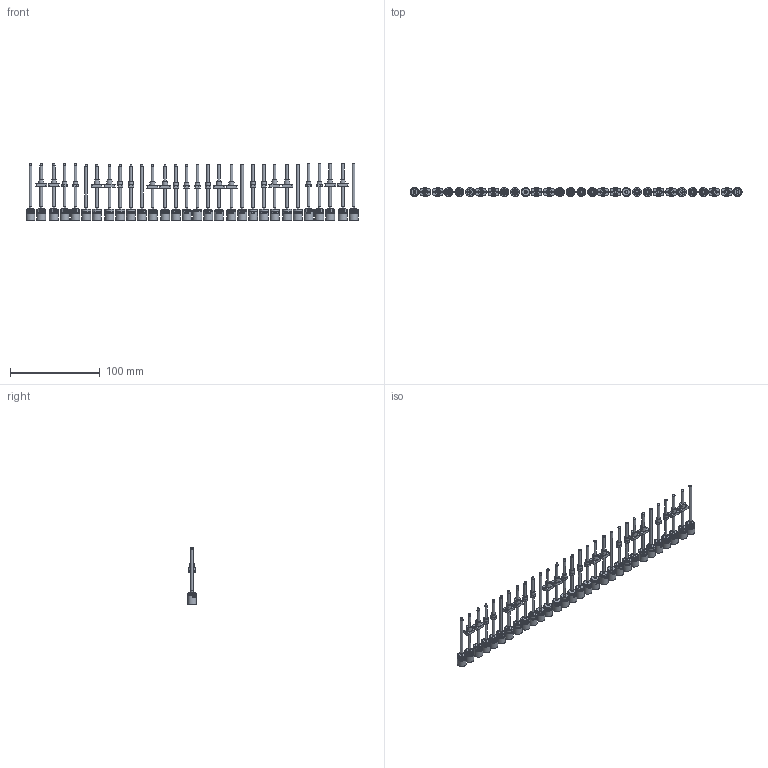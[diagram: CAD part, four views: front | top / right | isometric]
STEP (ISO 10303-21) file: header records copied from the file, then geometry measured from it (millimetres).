
FILE_DESCRIPTION(/* description */ (''),/* implementation_level */ '2;1');
FILE_NAME(/* name */ '10L-1stage_SL_standard_KWNx_KWS1_KFx.stp',/* time_stamp */ '2024-02-27T15:14:42+01:00',/* author */ ('DR. FRITZ FAULHABER GmbH & Co. KG'),/* organization */ ('DR. FRITZ FAULHABER GmbH & Co. KG'),/* preprocessor_version */ 'ST-DEVELOPER v19.3',/* originating_system */ 'SIEMENS PLM Software NX2212.4000',/* authorisation */ '');
FILE_SCHEMA (('AUTOMOTIVE_DESIGN { 1 0 10303 214 3 1 1 1 }'));
Length unit declared in the file: millimetre
Products named in the file (1): C_objects
Bounding box: 370 x 10 x 63 mm (x, y, z)
Volume: 41530.6 mm3; surface area: 37893.2 mm2
Topology: 30 solids, 30 shells, 3824 faces, 9409 edges, 6279 vertices
Faces by surface type: plane 2148, bspline 885, cylinder 741, cone 50
Full cylindrical faces by diameter (mm): 0.95 x40, 1.8 x24, 2 x15, 2.2 x30, 3 x54, 3.12 x30, 3.52 x30, 4.959 x30, 5 x12, 6 x42, 7 x20, 8.5 x10, 9.2 x10, 9.8 x30, 10 x70
Entity records: 177922 total; most frequent: CARTESIAN_POINT 80688, ORIENTED_EDGE 17548, DIRECTION 11833, EDGE_CURVE 8774, VERTEX_POINT 6146, EDGE_LOOP 5008, AXIS2_PLACEMENT_3D 4888, B_SPLINE_CURVE_WITH_KNOTS 4770
